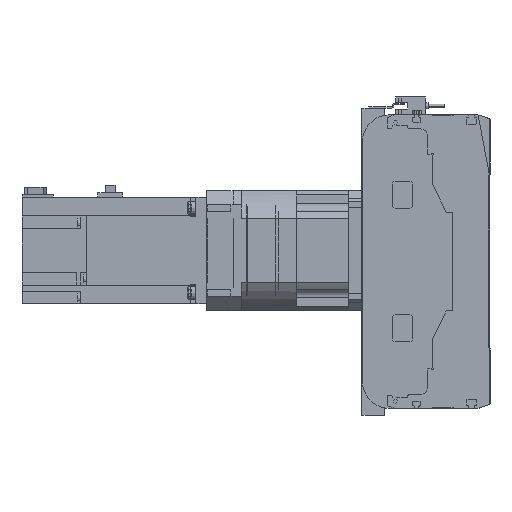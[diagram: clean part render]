
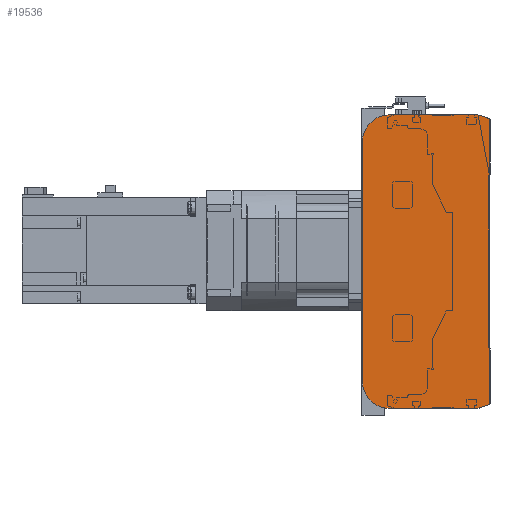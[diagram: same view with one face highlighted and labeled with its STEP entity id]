
A CAD part, left-side view. The second image highlights one B-rep face of the part: STEP entity #19536.
In plain terms, the highlighted planar face has unit normal (-1, 0, 0).
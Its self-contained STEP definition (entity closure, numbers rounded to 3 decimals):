
#1122=CIRCLE('',#21281,20.);
#1123=CIRCLE('',#21284,20.);
#4806=ORIENTED_EDGE('',*,*,#8456,.F.);
#4807=ORIENTED_EDGE('',*,*,#8498,.F.);
#4808=ORIENTED_EDGE('',*,*,#8496,.F.);
#4809=ORIENTED_EDGE('',*,*,#8494,.F.);
#4810=ORIENTED_EDGE('',*,*,#8483,.F.);
#4811=ORIENTED_EDGE('',*,*,#8474,.F.);
#4812=ORIENTED_EDGE('',*,*,#8470,.F.);
#4813=ORIENTED_EDGE('',*,*,#8467,.F.);
#8456=EDGE_CURVE('',#10625,#10626,#12379,.T.);
#8467=EDGE_CURVE('',#10626,#10633,#12390,.T.);
#8470=EDGE_CURVE('',#10633,#10635,#12393,.T.);
#8474=EDGE_CURVE('',#10635,#10636,#12397,.T.);
#8483=EDGE_CURVE('',#10636,#10642,#12406,.T.);
#8494=EDGE_CURVE('',#10642,#10649,#1122,.T.);
#8496=EDGE_CURVE('',#10649,#10650,#12418,.T.);
#8498=EDGE_CURVE('',#10650,#10625,#1123,.T.);
#10625=VERTEX_POINT('',#32403);
#10626=VERTEX_POINT('',#32405);
#10633=VERTEX_POINT('',#32424);
#10635=VERTEX_POINT('',#32430);
#10636=VERTEX_POINT('',#32436);
#10642=VERTEX_POINT('',#32452);
#10649=VERTEX_POINT('',#32471);
#10650=VERTEX_POINT('',#32475);
#12379=LINE('',#32404,#13972);
#12390=LINE('',#32423,#13983);
#12393=LINE('',#32429,#13986);
#12397=LINE('',#32435,#13990);
#12406=LINE('',#32451,#13999);
#12418=LINE('',#32474,#14011);
#13972=VECTOR('',#25736,1000.);
#13983=VECTOR('',#25749,1000.);
#13986=VECTOR('',#25754,1000.);
#13990=VECTOR('',#25760,1000.);
#13999=VECTOR('',#25771,1000.);
#14011=VECTOR('',#25789,1000.);
#15396=EDGE_LOOP('',(#4806,#4807,#4808,#4809,#4810,#4811,#4812,#4813));
#17286=FACE_BOUND('',#15396,.T.);
#18615=PLANE('',#21285);
#19536=ADVANCED_FACE('',(#17286),#18615,.F.);
#21281=AXIS2_PLACEMENT_3D('',#32470,#25784,#25785);
#21284=AXIS2_PLACEMENT_3D('',#32478,#25793,#25794);
#21285=AXIS2_PLACEMENT_3D('',#32479,#25795,#25796);
#25736=DIRECTION('',(0.,-1.,0.));
#25749=DIRECTION('',(0.,-0.945,-0.328));
#25754=DIRECTION('',(0.,0.,-1.));
#25760=DIRECTION('',(0.,0.945,-0.328));
#25771=DIRECTION('',(0.,1.,0.));
#25784=DIRECTION('',(1.,0.,0.));
#25785=DIRECTION('',(0.,0.,-1.));
#25789=DIRECTION('',(0.,0.,1.));
#25793=DIRECTION('',(1.,0.,0.));
#25794=DIRECTION('',(0.,0.,-1.));
#25795=DIRECTION('',(1.,0.,0.));
#25796=DIRECTION('',(0.,0.,-1.));
#32403=CARTESIAN_POINT('',(0.,75.5,110.));
#32404=CARTESIAN_POINT('',(0.,75.5,110.));
#32405=CARTESIAN_POINT('',(0.,9.,110.));
#32423=CARTESIAN_POINT('',(0.,9.,110.));
#32424=CARTESIAN_POINT('',(0.,0.5,107.05));
#32429=CARTESIAN_POINT('',(0.,0.5,107.05));
#32430=CARTESIAN_POINT('',(0.,0.5,-107.05));
#32435=CARTESIAN_POINT('',(0.,0.5,-107.05));
#32436=CARTESIAN_POINT('',(0.,9.,-110.));
#32451=CARTESIAN_POINT('',(0.,9.,-110.));
#32452=CARTESIAN_POINT('',(0.,75.5,-110.));
#32470=CARTESIAN_POINT('',(0.,75.5,-90.));
#32471=CARTESIAN_POINT('',(0.,95.5,-90.));
#32474=CARTESIAN_POINT('',(0.,95.5,-90.));
#32475=CARTESIAN_POINT('',(0.,95.5,90.));
#32478=CARTESIAN_POINT('',(0.,75.5,90.));
#32479=CARTESIAN_POINT('',(0.,75.5,-90.));
